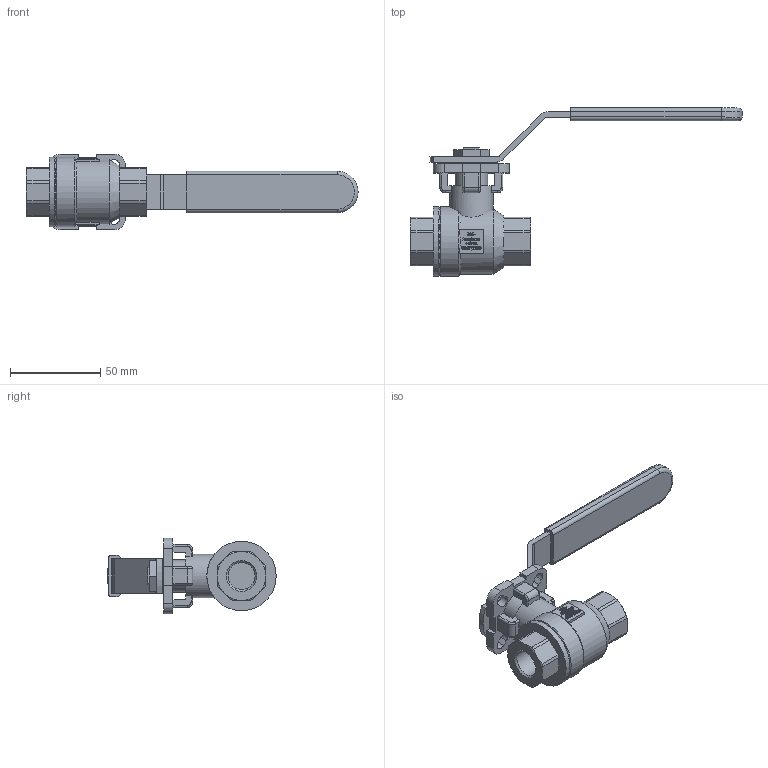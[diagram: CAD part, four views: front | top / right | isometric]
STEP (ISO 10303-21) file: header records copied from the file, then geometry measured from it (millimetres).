
FILE_DESCRIPTION((''),'2;1');
FILE_NAME('K:\Inventor\1 Artikel\11) Muffen-Kugelhähne\11a) manuell\Econosto\440-VA, 7752ISO\440-VA, G0,375\440-VA, G0,375, 3D\440-VA, G0,375, PN68, HH, 3D.stp','2019-10-24T14:38:22',('claudia'),(''),'Autodesk Inventor 2013','Autodesk Inventor 2013','');
FILE_SCHEMA(('AUTOMOTIVE_DESIGN { 1 0 10303 214 1 1 1 1 }'));
Length unit declared in the file: millimetre
Products named in the file (1): Bauteil6
Bounding box: 184 x 93.3 x 42 mm (x, y, z)
Volume: 88654.9 mm3; surface area: 26039.3 mm2
Topology: 1 solids, 1 shells, 1359 faces, 3672 edges, 2428 vertices
Faces by surface type: plane 752, bspline 505, cylinder 70, cone 22, torus 10
Full cylindrical faces by diameter (mm): 14.95 x2, 18 x1, 24 x1, 28 x1, 36 x1, 38.4 x2
Entity records: 46491 total; most frequent: CARTESIAN_POINT 15736, ORIENTED_EDGE 7312, DIRECTION 4495, EDGE_CURVE 3656, VERTEX_POINT 2424, VECTOR 2405, LINE 2405, EDGE_LOOP 1500
